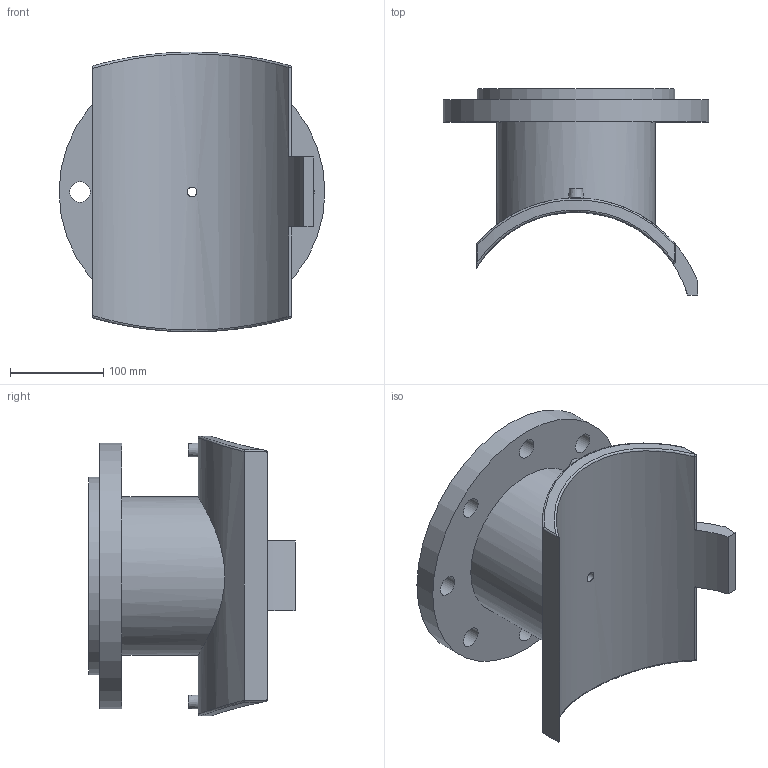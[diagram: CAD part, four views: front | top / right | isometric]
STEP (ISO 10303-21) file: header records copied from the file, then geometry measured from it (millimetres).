
FILE_DESCRIPTION(/* description */ ('PLASSON FLANGED BRANCH SADDLE 250x150'),/* implementation_level */ '2;1');
FILE_NAME(/* name */ 'C:\Dropbox\KIMPROJECTS-Inventor 2019\99-16-3568-Processing\ElectroFusion Fittings\495904_495903\stp\495903250150T.stp',/* time_stamp */ '2024-04-03T21:00:05+02:00',/* author */ ('KIM'),/* organization */ (''),/* preprocessor_version */ 'ST-DEVELOPER v17.2',/* originating_system */ 'Autodesk Inventor 2019',/* authorisation */ '');
FILE_SCHEMA (('AUTOMOTIVE_DESIGN { 1 0 10303 214 3 1 1 }'));
Length unit declared in the file: millimetre
Products named in the file (1): 495903250150T
Bounding box: 285 x 220.92 x 299.93 mm (x, y, z)
Volume: 3360879.7 mm3; surface area: 400009.7 mm2
Topology: 1 solids, 1 shells, 58 faces, 151 edges, 118 vertices
Faces by surface type: cylinder 31, plane 17, sphere 4, bspline 4, cone 2
Full cylindrical faces by diameter (mm): 4 x2, 10 x2, 10.4 x1, 16 x1, 22 x8, 131 x1, 169.6 x1, 212 x1, 285 x1
Entity records: 2469 total; most frequent: CARTESIAN_POINT 973, DIRECTION 297, ORIENTED_EDGE 274, EDGE_CURVE 137, AXIS2_PLACEMENT_3D 125, VERTEX_POINT 92, EDGE_LOOP 87, CIRCLE 70
